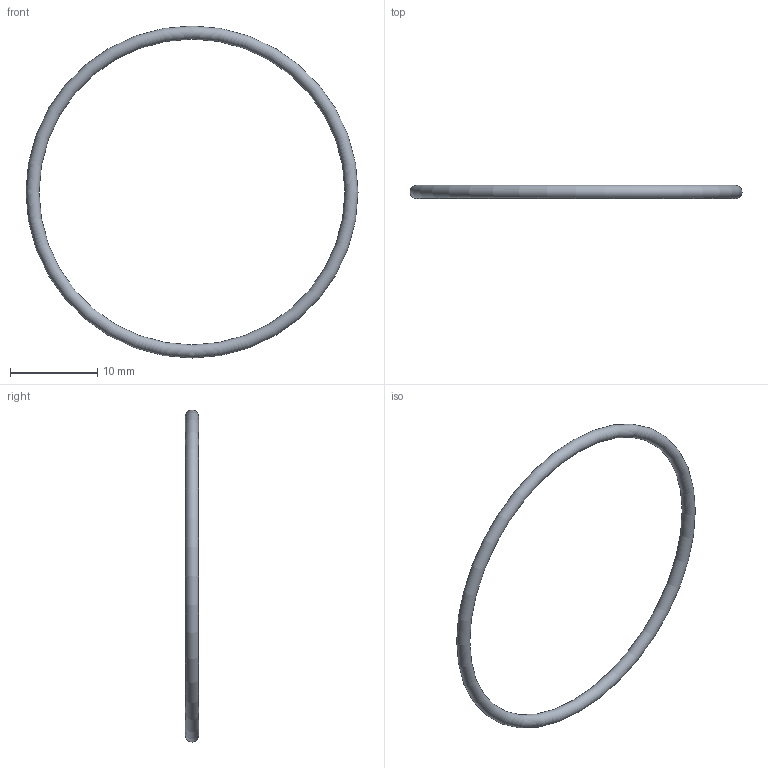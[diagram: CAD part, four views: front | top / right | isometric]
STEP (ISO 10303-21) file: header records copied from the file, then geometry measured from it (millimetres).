
FILE_DESCRIPTION( ( 'STEP AP203' ), '1' );
FILE_NAME( 'C:/Temp/Ganter_Step_05_03_2020/data/3_5/or638/O-Ring OR638-35.00-1.50-70.stp', '2020-03-12T13:44:18', ( 'License CC BY-ND 4.0' ), ( 'CADENAS' ), ' ', 'PARTsolutions', ' ' );
FILE_SCHEMA( ( 'CONFIG_CONTROL_DESIGN' ) );
Length unit declared in the file: millimetre
Products named in the file (1): _O-Ring OR638-35.00-1.50-70
Bounding box: 38 x 1.5 x 38 mm (x, y, z)
Volume: 202.6 mm3; surface area: 540.4 mm2
Topology: 1 solids, 1 shells, 1 faces, 2 edges, 1 vertices
Faces by surface type: torus 1
Entity records: 62 total; most frequent: CC_DESIGN_PERSON_AND_ORGANIZATION_ASSIGNMENT 5, PERSON_AND_ORGANIZATION_ROLE 4, DIRECTION 4, CARTESIAN_POINT 3, DATE_TIME_ROLE 2, CC_DESIGN_DATE_AND_TIME_ASSIGNMENT 2, AXIS2_PLACEMENT_3D 2, DIMENSIONAL_EXPONENTS 2
